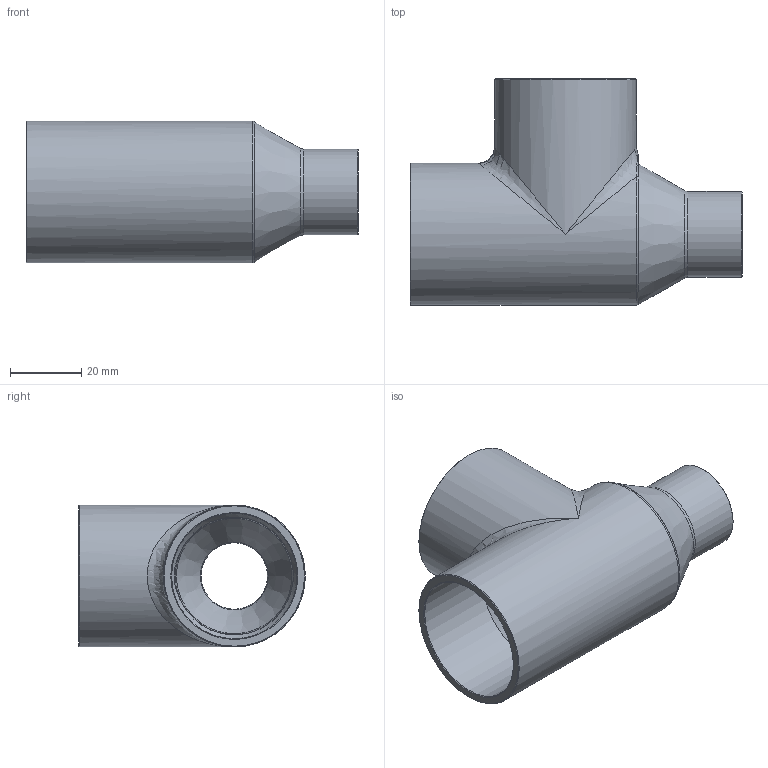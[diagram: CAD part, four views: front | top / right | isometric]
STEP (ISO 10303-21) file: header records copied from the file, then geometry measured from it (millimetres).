
FILE_DESCRIPTION((''),'2;1');
FILE_NAME('G:\SANHA-Ternat\Technik\Management\Bouwmaten + markeringen\z-maattekeningen 3D\29000s\2913013813834_3d.stp','2017-08-03T11:18:08',('vdvijverd'),(''),'Autodesk Inventor 2009','Autodesk Inventor 2009','');
FILE_SCHEMA(('AUTOMOTIVE_DESIGN { 1 0 10303 214 1 1 1 1 }'));
Length unit declared in the file: millimetre
Products named in the file (1): 2913013813834_3d
Bounding box: 92.9 x 63.35 x 39.7 mm (x, y, z)
Volume: 32622.3 mm3; surface area: 24976.1 mm2
Topology: 1 solids, 1 shells, 37 faces, 92 edges, 48 vertices
Faces by surface type: bspline 11, cone 10, cylinder 9, plane 4, torus 3
Full cylindrical faces by diameter (mm): 19.17 x1, 23.97 x1, 35.105 x2, 39.7 x2
Entity records: 2169 total; most frequent: CARTESIAN_POINT 1452, DIRECTION 148, ORIENTED_EDGE 116, AXIS2_PLACEMENT_3D 74, EDGE_LOOP 60, EDGE_CURVE 58, VERTEX_POINT 42, FACE_OUTER_BOUND 37
